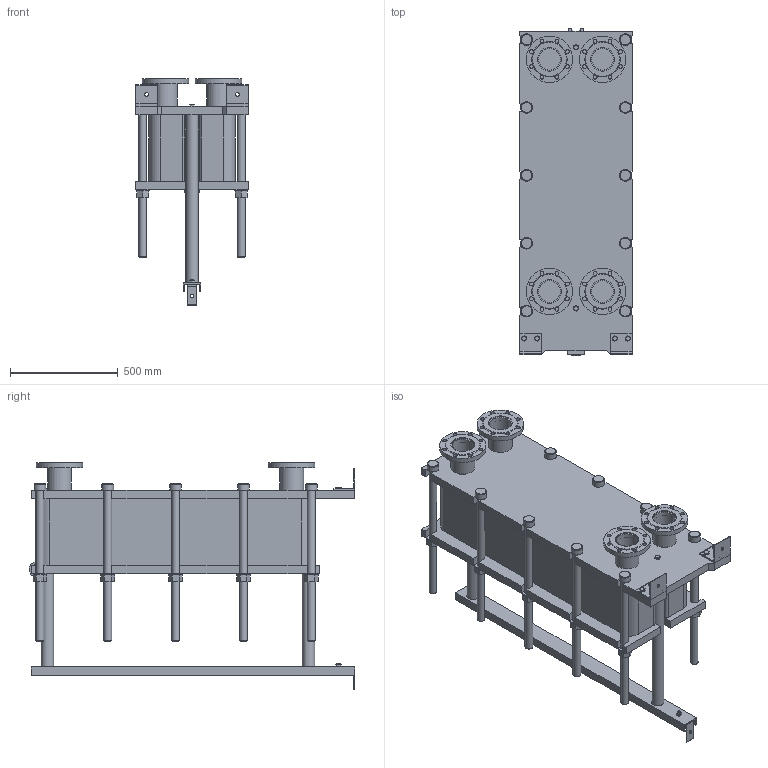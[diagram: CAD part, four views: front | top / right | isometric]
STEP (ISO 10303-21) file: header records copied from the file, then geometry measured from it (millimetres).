
FILE_DESCRIPTION(/* description */ (''),/* implementation_level */ '2;1');
FILE_NAME(/* name */ 'C:\Users\zhuro\Desktop\ENCO\TO\ЭН-04\ЭН-0,5-04-89-1.stp',/* time_stamp */ '2022-06-06T10:52:45+03:00',/* author */ ('zhuro'),/* organization */ (''),/* preprocessor_version */ 'ST-DEVELOPER v18.1',/* originating_system */ 'Autodesk Inventor 2022',/* authorisation */ '');
FILE_SCHEMA (('AUTOMOTIVE_DESIGN { 1 0 10303 214 3 1 1 }'));
Length unit declared in the file: millimetre
Products named in the file (1): ЭН-0,5-04-89-1
Bounding box: 520 x 1510 x 1054.5 mm (x, y, z)
Volume: 224063802 mm3; surface area: 8113370.9 mm2
Topology: 45 solids, 45 shells, 668 faces, 1611 edges, 1048 vertices
Faces by surface type: plane 457, cylinder 166, cone 39, torus 6
Full cylindrical faces by diameter (mm): 8 x4, 10 x2, 16 x8, 18 x35, 36 x25, 40 x2, 42 x1, 45 x4, 54 x10, 57 x2, 60 x10, 68 x2, 100 x4, 110 x8, 215 x4
Entity records: 23607 total; most frequent: CARTESIAN_POINT 7348, DIRECTION 3371, ORIENTED_EDGE 3142, EDGE_CURVE 1571, AXIS2_PLACEMENT_3D 1199, VERTEX_POINT 1044, LINE 973, VECTOR 973
